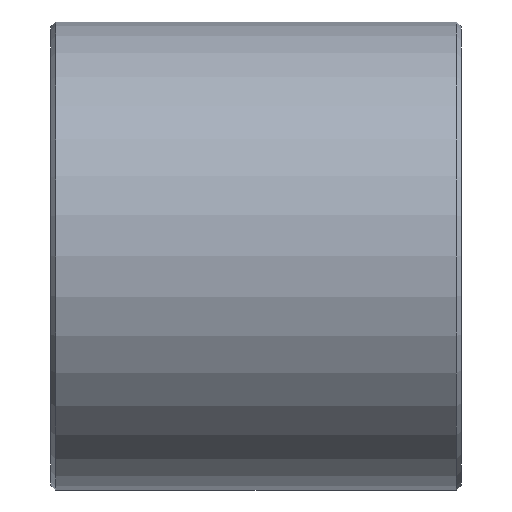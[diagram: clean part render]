
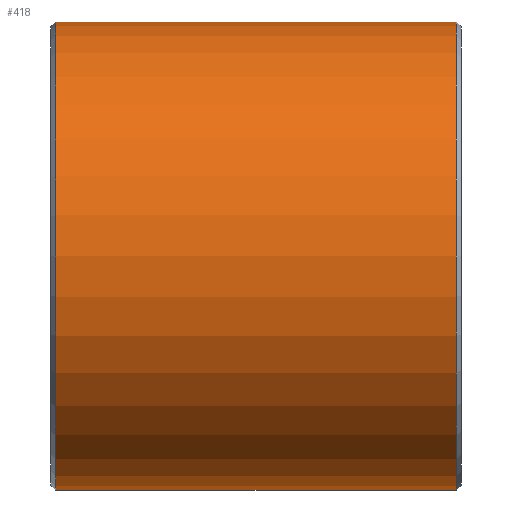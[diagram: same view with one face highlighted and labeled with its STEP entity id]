
A CAD part, front view. The second image highlights one B-rep face of the part: STEP entity #418.
In plain terms, the highlighted cylindrical face has radius 34.2 mm (diameter 68.4 mm), a full revolution.
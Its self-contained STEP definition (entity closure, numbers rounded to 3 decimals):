
#13=B_SPLINE_CURVE_WITH_KNOTS('',3,(#676,#677,#678,#679,#680,#681,#682,
#683,#684,#685,#686,#687,#688,#689,#690,#691,#692,#693,#694,#695,#696,#697),
 .UNSPECIFIED.,.F.,.F.,(4,2,2,2,2,2,2,2,2,2,4),(0.,0.196,0.392,
0.589,0.785,0.981,1.177,1.373,
1.57,1.766,1.952),.UNSPECIFIED.);
#14=B_SPLINE_CURVE_WITH_KNOTS('',3,(#698,#699,#700,#701,#702,#703),
 .UNSPECIFIED.,.F.,.F.,(4,2,4),(2.757,2.943,3.139),
 .UNSPECIFIED.);
#15=B_SPLINE_CURVE_WITH_KNOTS('',3,(#715,#716,#717,#718,#719,#720,#721,
#722,#723,#724,#725,#726,#727,#728,#729,#730,#731,#732,#733,#734,#735,#736),
 .UNSPECIFIED.,.F.,.F.,(4,2,2,2,2,2,2,2,2,2,4),(1.188,1.373,
1.57,1.766,1.962,2.158,2.354,
2.551,2.747,2.943,3.139),
 .UNSPECIFIED.);
#16=B_SPLINE_CURVE_WITH_KNOTS('',3,(#737,#738,#739,#740,#741,#742),
 .UNSPECIFIED.,.F.,.F.,(4,2,4),(0.,0.196,0.382),
 .UNSPECIFIED.);
#21=LINE('',#651,#33);
#22=LINE('',#654,#34);
#26=LINE('',#664,#38);
#30=LINE('',#671,#42);
#33=VECTOR('',#518,24.949);
#34=VECTOR('',#521,9.846);
#38=VECTOR('',#531,24.949);
#42=VECTOR('',#537,9.846);
#66=FACE_OUTER_BOUND('',#136,.T.);
#82=CYLINDRICAL_SURFACE('',#462,34.2);
#97=FACE_BOUND('',#137,.T.);
#98=FACE_BOUND('',#138,.T.);
#136=EDGE_LOOP('',(#317));
#137=EDGE_LOOP('',(#318,#319,#320,#321,#322,#323,#324,#325));
#138=EDGE_LOOP('',(#326));
#178=CIRCLE('',#463,34.2);
#179=CIRCLE('',#464,34.2);
#193=VERTEX_POINT('',#620);
#195=VERTEX_POINT('',#625);
#200=VERTEX_POINT('',#649);
#201=VERTEX_POINT('',#653);
#204=VERTEX_POINT('',#663);
#206=VERTEX_POINT('',#669);
#207=VERTEX_POINT('',#675);
#211=VERTEX_POINT('',#712);
#212=VERTEX_POINT('',#714);
#213=VERTEX_POINT('',#743);
#238=EDGE_CURVE('',#193,#200,#21,.T.);
#239=EDGE_CURVE('',#201,#193,#22,.T.);
#244=EDGE_CURVE('',#204,#195,#26,.T.);
#248=EDGE_CURVE('',#195,#206,#30,.T.);
#250=EDGE_CURVE('',#207,#204,#13,.T.);
#251=EDGE_CURVE('',#200,#207,#14,.T.);
#255=EDGE_CURVE('',#211,#211,#178,.T.);
#256=EDGE_CURVE('',#206,#212,#15,.T.);
#257=EDGE_CURVE('',#212,#201,#16,.T.);
#258=EDGE_CURVE('',#213,#213,#179,.T.);
#317=ORIENTED_EDGE('',*,*,#255,.T.);
#318=ORIENTED_EDGE('',*,*,#238,.T.);
#319=ORIENTED_EDGE('',*,*,#251,.T.);
#320=ORIENTED_EDGE('',*,*,#250,.T.);
#321=ORIENTED_EDGE('',*,*,#244,.T.);
#322=ORIENTED_EDGE('',*,*,#248,.T.);
#323=ORIENTED_EDGE('',*,*,#256,.T.);
#324=ORIENTED_EDGE('',*,*,#257,.T.);
#325=ORIENTED_EDGE('',*,*,#239,.T.);
#326=ORIENTED_EDGE('',*,*,#258,.F.);
#418=ADVANCED_FACE('',(#66,#97,#98),#82,.T.);
#462=AXIS2_PLACEMENT_3D('',#711,#552,#553);
#463=AXIS2_PLACEMENT_3D('',#713,#554,#555);
#464=AXIS2_PLACEMENT_3D('',#744,#556,#557);
#518=DIRECTION('',(1.,0.,0.));
#521=DIRECTION('',(1.,0.,0.));
#531=DIRECTION('',(-1.,0.,0.));
#537=DIRECTION('',(-1.,0.,0.));
#552=DIRECTION('center_axis',(1.,0.,0.));
#553=DIRECTION('ref_axis',(0.,1.,0.));
#554=DIRECTION('center_axis',(1.,0.,0.));
#555=DIRECTION('ref_axis',(0.,1.,0.));
#556=DIRECTION('center_axis',(1.,0.,0.));
#557=DIRECTION('ref_axis',(0.,1.,0.));
#620=CARTESIAN_POINT('',(-7.552,33.994,-3.75));
#625=CARTESIAN_POINT('',(-7.552,33.994,3.75));
#649=CARTESIAN_POINT('',(17.398,33.994,-3.75));
#651=CARTESIAN_POINT('',(0.,33.994,-3.75));
#653=CARTESIAN_POINT('',(-17.398,33.994,-3.75));
#654=CARTESIAN_POINT('',(0.,33.994,-3.75));
#663=CARTESIAN_POINT('',(17.398,33.994,3.75));
#664=CARTESIAN_POINT('',(0.,33.994,3.75));
#669=CARTESIAN_POINT('',(-17.398,33.994,3.75));
#671=CARTESIAN_POINT('',(0.,33.994,3.75));
#675=CARTESIAN_POINT('',(21.,33.802,-5.2));
#676=CARTESIAN_POINT('Ctrl Pts',(21.,33.802,-5.2));
#677=CARTESIAN_POINT('Ctrl Pts',(21.654,33.802,-5.2));
#678=CARTESIAN_POINT('Ctrl Pts',(22.351,33.823,-5.069));
#679=CARTESIAN_POINT('Ctrl Pts',(23.632,33.899,-4.538));
#680=CARTESIAN_POINT('Ctrl Pts',(24.216,33.952,-4.138));
#681=CARTESIAN_POINT('Ctrl Pts',(25.138,34.052,-3.216));
#682=CARTESIAN_POINT('Ctrl Pts',(25.538,34.105,-2.632));
#683=CARTESIAN_POINT('Ctrl Pts',(26.069,34.179,-1.351));
#684=CARTESIAN_POINT('Ctrl Pts',(26.2,34.2,-0.654));
#685=CARTESIAN_POINT('Ctrl Pts',(26.2,34.2,0.654));
#686=CARTESIAN_POINT('Ctrl Pts',(26.069,34.179,1.351));
#687=CARTESIAN_POINT('Ctrl Pts',(25.538,34.105,2.632));
#688=CARTESIAN_POINT('Ctrl Pts',(25.138,34.052,3.216));
#689=CARTESIAN_POINT('Ctrl Pts',(24.216,33.952,4.138));
#690=CARTESIAN_POINT('Ctrl Pts',(23.632,33.899,4.538));
#691=CARTESIAN_POINT('Ctrl Pts',(22.351,33.823,5.069));
#692=CARTESIAN_POINT('Ctrl Pts',(21.654,33.802,5.2));
#693=CARTESIAN_POINT('Ctrl Pts',(20.346,33.802,5.2));
#694=CARTESIAN_POINT('Ctrl Pts',(19.649,33.823,5.069));
#695=CARTESIAN_POINT('Ctrl Pts',(18.402,33.897,4.552));
#696=CARTESIAN_POINT('Ctrl Pts',(17.846,33.946,4.181));
#697=CARTESIAN_POINT('Ctrl Pts',(17.398,33.994,3.75));
#698=CARTESIAN_POINT('Ctrl Pts',(17.398,33.994,-3.75));
#699=CARTESIAN_POINT('Ctrl Pts',(17.846,33.946,-4.181));
#700=CARTESIAN_POINT('Ctrl Pts',(18.402,33.897,-4.552));
#701=CARTESIAN_POINT('Ctrl Pts',(19.649,33.823,-5.069));
#702=CARTESIAN_POINT('Ctrl Pts',(20.346,33.802,-5.2));
#703=CARTESIAN_POINT('Ctrl Pts',(21.,33.802,-5.2));
#711=CARTESIAN_POINT('Origin',(0.,0.,0.));
#712=CARTESIAN_POINT('',(-29.293,34.2,0.));
#713=CARTESIAN_POINT('Origin',(-29.293,0.,0.));
#714=CARTESIAN_POINT('',(-21.,33.802,-5.2));
#715=CARTESIAN_POINT('Ctrl Pts',(-17.398,33.994,3.75));
#716=CARTESIAN_POINT('Ctrl Pts',(-17.846,33.946,4.181));
#717=CARTESIAN_POINT('Ctrl Pts',(-18.402,33.897,4.552));
#718=CARTESIAN_POINT('Ctrl Pts',(-19.649,33.823,5.069));
#719=CARTESIAN_POINT('Ctrl Pts',(-20.346,33.802,5.2));
#720=CARTESIAN_POINT('Ctrl Pts',(-21.654,33.802,5.2));
#721=CARTESIAN_POINT('Ctrl Pts',(-22.351,33.823,5.069));
#722=CARTESIAN_POINT('Ctrl Pts',(-23.632,33.899,4.538));
#723=CARTESIAN_POINT('Ctrl Pts',(-24.216,33.952,4.138));
#724=CARTESIAN_POINT('Ctrl Pts',(-25.138,34.052,3.216));
#725=CARTESIAN_POINT('Ctrl Pts',(-25.538,34.105,2.632));
#726=CARTESIAN_POINT('Ctrl Pts',(-26.069,34.179,1.351));
#727=CARTESIAN_POINT('Ctrl Pts',(-26.2,34.2,0.654));
#728=CARTESIAN_POINT('Ctrl Pts',(-26.2,34.2,-0.654));
#729=CARTESIAN_POINT('Ctrl Pts',(-26.069,34.179,-1.351));
#730=CARTESIAN_POINT('Ctrl Pts',(-25.538,34.105,-2.632));
#731=CARTESIAN_POINT('Ctrl Pts',(-25.138,34.052,-3.216));
#732=CARTESIAN_POINT('Ctrl Pts',(-24.216,33.952,-4.138));
#733=CARTESIAN_POINT('Ctrl Pts',(-23.632,33.899,-4.538));
#734=CARTESIAN_POINT('Ctrl Pts',(-22.351,33.823,-5.069));
#735=CARTESIAN_POINT('Ctrl Pts',(-21.654,33.802,-5.2));
#736=CARTESIAN_POINT('Ctrl Pts',(-21.,33.802,-5.2));
#737=CARTESIAN_POINT('Ctrl Pts',(-21.,33.802,-5.2));
#738=CARTESIAN_POINT('Ctrl Pts',(-20.346,33.802,-5.2));
#739=CARTESIAN_POINT('Ctrl Pts',(-19.649,33.823,-5.069));
#740=CARTESIAN_POINT('Ctrl Pts',(-18.402,33.897,-4.552));
#741=CARTESIAN_POINT('Ctrl Pts',(-17.846,33.946,-4.181));
#742=CARTESIAN_POINT('Ctrl Pts',(-17.398,33.994,-3.75));
#743=CARTESIAN_POINT('',(29.293,34.2,0.));
#744=CARTESIAN_POINT('Origin',(29.293,0.,0.));
